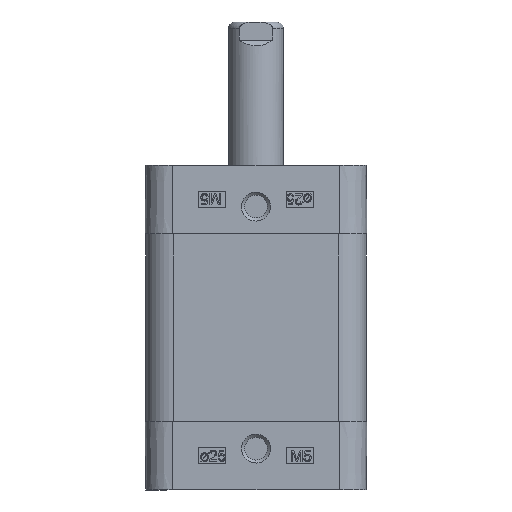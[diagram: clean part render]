
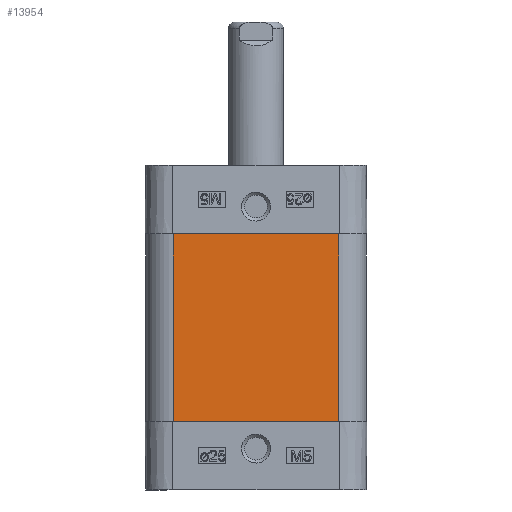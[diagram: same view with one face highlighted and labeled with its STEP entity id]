
A CAD part, left-side view. The second image highlights one B-rep face of the part: STEP entity #13954.
In plain terms, the highlighted planar face has unit normal (-1, 0, 0).
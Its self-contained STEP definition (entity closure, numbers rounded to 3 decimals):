
#773=PLANE('',#14827);
#1544=LINE('',#21197,#2424);
#1572=LINE('',#21310,#2452);
#1654=LINE('',#21530,#2534);
#1655=LINE('',#21532,#2535);
#2424=VECTOR('',#17067,1000.);
#2452=VECTOR('',#17153,1000.);
#2534=VECTOR('',#17399,1000.);
#2535=VECTOR('',#17402,1000.);
#5299=ORIENTED_EDGE('',*,*,#6643,.T.);
#5300=ORIENTED_EDGE('',*,*,#6809,.T.);
#5301=ORIENTED_EDGE('',*,*,#6810,.T.);
#5302=ORIENTED_EDGE('',*,*,#6699,.F.);
#6643=EDGE_CURVE('',#7697,#7698,#1544,.T.);
#6699=EDGE_CURVE('',#7697,#7753,#1572,.T.);
#6809=EDGE_CURVE('',#7698,#7808,#1654,.T.);
#6810=EDGE_CURVE('',#7808,#7753,#1655,.T.);
#7697=VERTEX_POINT('',#21198);
#7698=VERTEX_POINT('',#21199);
#7753=VERTEX_POINT('',#21311);
#7808=VERTEX_POINT('',#21529);
#8898=EDGE_LOOP('',(#5299,#5300,#5301,#5302));
#9638=FACE_BOUND('',#8898,.T.);
#13954=ADVANCED_FACE('',(#9638),#773,.T.);
#14827=AXIS2_PLACEMENT_3D('',#21531,#17400,#17401);
#17067=DIRECTION('',(0.,0.,-1.));
#17153=DIRECTION('',(0.,-1.,0.));
#17399=DIRECTION('',(0.,-1.,0.));
#17400=DIRECTION('',(-1.,0.,0.));
#17401=DIRECTION('',(0.,0.,1.));
#17402=DIRECTION('',(0.,0.,1.));
#21197=CARTESIAN_POINT('',(-20.,24.5,15.));
#21198=CARTESIAN_POINT('',(-20.,24.5,15.));
#21199=CARTESIAN_POINT('',(-20.,24.5,-15.));
#21310=CARTESIAN_POINT('',(-20.,9.5,15.));
#21311=CARTESIAN_POINT('',(-20.,-9.5,15.));
#21529=CARTESIAN_POINT('',(-20.,-9.5,-15.));
#21530=CARTESIAN_POINT('',(-20.,9.5,-15.));
#21531=CARTESIAN_POINT('',(-20.,0.,15.));
#21532=CARTESIAN_POINT('',(-20.,-9.5,-15.));
